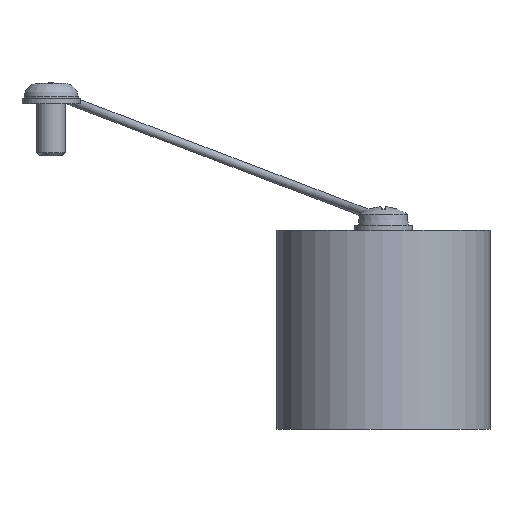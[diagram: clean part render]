
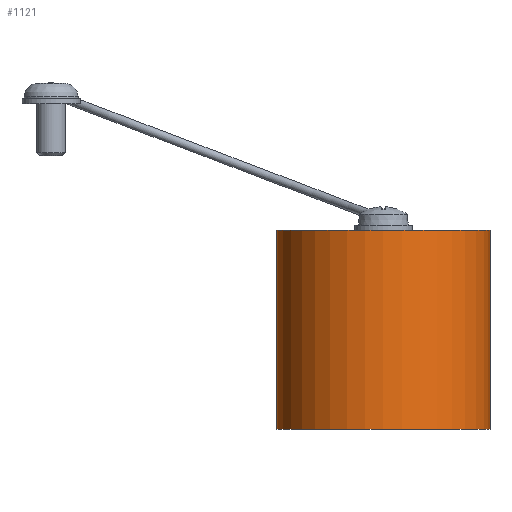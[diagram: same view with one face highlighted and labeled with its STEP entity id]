
A CAD part, front view. The second image highlights one B-rep face of the part: STEP entity #1121.
In plain terms, the highlighted cylindrical face has radius 15 mm (diameter 30 mm), a full revolution.
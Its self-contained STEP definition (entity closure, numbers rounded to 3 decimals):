
#238=CYLINDRICAL_SURFACE('',#1211,15.);
#255=FACE_BOUND('',#356,.T.);
#284=FACE_OUTER_BOUND('',#355,.T.);
#355=EDGE_LOOP('',(#778));
#356=EDGE_LOOP('',(#779));
#450=CIRCLE('',#1212,15.);
#451=CIRCLE('',#1213,15.);
#507=VERTEX_POINT('',#1677);
#508=VERTEX_POINT('',#1679);
#618=EDGE_CURVE('',#507,#507,#450,.T.);
#619=EDGE_CURVE('',#508,#508,#451,.T.);
#778=ORIENTED_EDGE('',*,*,#618,.T.);
#779=ORIENTED_EDGE('',*,*,#619,.F.);
#1121=ADVANCED_FACE('',(#284,#255),#238,.T.);
#1211=AXIS2_PLACEMENT_3D('',#1676,#1356,#1357);
#1212=AXIS2_PLACEMENT_3D('',#1678,#1358,#1359);
#1213=AXIS2_PLACEMENT_3D('',#1680,#1360,#1361);
#1356=DIRECTION('center_axis',(0.,0.,1.));
#1357=DIRECTION('ref_axis',(-1.,0.,0.));
#1358=DIRECTION('center_axis',(0.,0.,-1.));
#1359=DIRECTION('ref_axis',(-1.,0.,0.));
#1360=DIRECTION('center_axis',(0.,0.,-1.));
#1361=DIRECTION('ref_axis',(-1.,0.,0.));
#1676=CARTESIAN_POINT('Origin',(0.,0.,0.));
#1677=CARTESIAN_POINT('',(15.,0.,28.));
#1678=CARTESIAN_POINT('Origin',(0.,0.,28.));
#1679=CARTESIAN_POINT('',(15.,0.,0.));
#1680=CARTESIAN_POINT('Origin',(0.,0.,0.));
